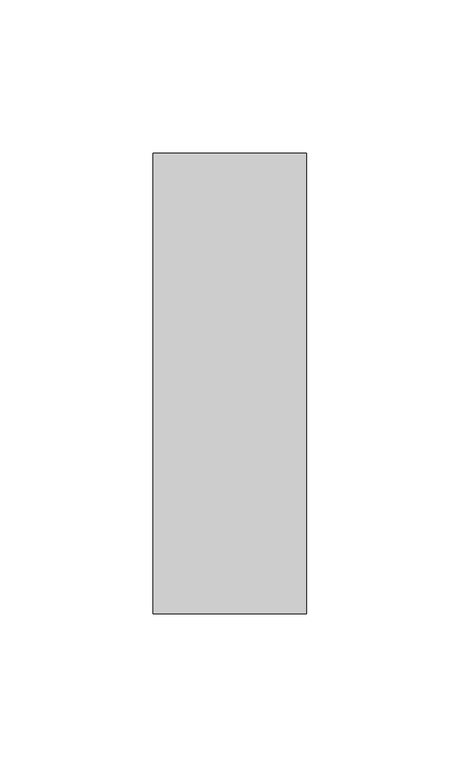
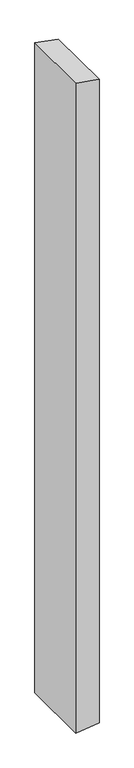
"""IFC4 building model written with IfcOpenShell, lengths in millimetres: member geometry, Прямоугольный импост : 50 x 150 мм."""

from ifc_helpers import new_model, si_unit, frame, origin, place, context, project, spatial, polyline, outline, extrude, source, transform, mapped, element, save


def member_a43dc375(model_context):
    return source(origin(), model_context, "Body", "SweptSolid", [
        extrude(outline(polyline([(0.0, 0.0), (9.3742282, -50.0), (-1454.3149074, -50.0), (-1448.8054304, 0.0), (0.0, 0.0)])), frame((0.0, -75.0, 0.0), z_axis=(0.0, 1.0, 0.0), x_axis=(0.0, 0.0, 1.0)), (0.0, 0.0, 1.0), 150.0),
    ])


if __name__ == "__main__":
    model = new_model("IFC4")
    model_context = context("Model", 3, world=origin())
    ifc_project = project(units=[si_unit("LENGTHUNIT", "METRE", prefix="MILLI")], contexts=[model_context])
    site = spatial("IfcSite", under=ifc_project)
    building = spatial("IfcBuilding", under=site)
    placement = place(None, origin())
    member_shape = member_a43dc375(model_context)
    element("IfcMember", 1, ObjectType="Прямоугольный импост : 50 x 150 мм", at=placement, inside=building, context=model_context, shape_type="MappedRepresentation", body=[
        mapped(member_shape, transform((0.0, 0.0, 0.0), x_axis=(1.0, 0.0, 0.0), y_axis=(0.0, 1.0, 0.0), z_axis=(0.0, 0.0, 1.0))),
    ])
    save(model, "model.ifc")
